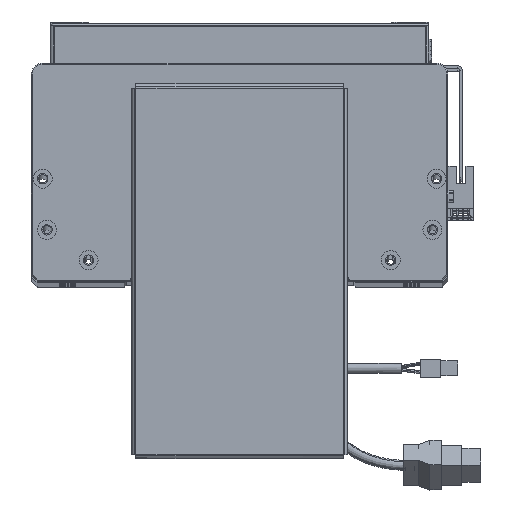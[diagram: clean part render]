
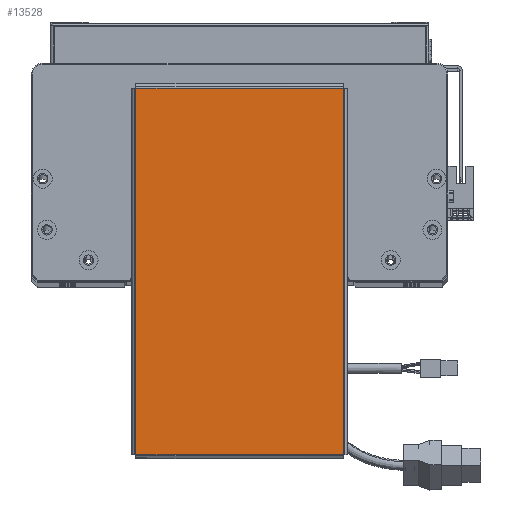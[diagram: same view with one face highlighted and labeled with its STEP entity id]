
A CAD part, top view. The second image highlights one B-rep face of the part: STEP entity #13528.
In plain terms, the highlighted planar face has unit normal (0, 0, 1).
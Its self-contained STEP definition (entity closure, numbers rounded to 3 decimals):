
#1502 = EDGE_CURVE ( 'NONE', #52311, #41374, #34867, .T. ) ;
#5179 = EDGE_CURVE ( 'NONE', #15331, #52311, #48232, .T. ) ;
#7423 = VECTOR ( 'NONE', #32592, 1000. ) ;
#12719 = ORIENTED_EDGE ( 'NONE', *, *, #48287, .T. ) ;
#13528 = ADVANCED_FACE ( 'NONE', ( #31254 ), #30038, .T. ) ;
#13842 = CARTESIAN_POINT ( 'NONE',  ( 0., 0., 0. ) ) ;
#15331 = VERTEX_POINT ( 'NONE', #54753 ) ;
#15430 = LINE ( 'NONE', #32255, #43226 ) ;
#19565 = ORIENTED_EDGE ( 'NONE', *, *, #5179, .T. ) ;
#23608 = CARTESIAN_POINT ( 'NONE',  ( -96.763, -54.763, 0. ) ) ;
#24125 = ORIENTED_EDGE ( 'NONE', *, *, #1502, .T. ) ;
#29405 = VECTOR ( 'NONE', #61556, 1000. ) ;
#30038 = PLANE ( 'NONE',  #51616 ) ;
#30051 = EDGE_LOOP ( 'NONE', ( #24125, #61906, #12719, #19565 ) ) ;
#31254 = FACE_OUTER_BOUND ( 'NONE', #30051, .T. ) ;
#31742 = CARTESIAN_POINT ( 'NONE',  ( -96.793, -54.763, 0. ) ) ;
#32255 = CARTESIAN_POINT ( 'NONE',  ( 96.763, -54.793, 0. ) ) ;
#32592 = DIRECTION ( 'NONE',  ( 0., -1., 0. ) ) ;
#34867 = LINE ( 'NONE', #31742, #62606 ) ;
#34896 = EDGE_CURVE ( 'NONE', #41374, #36111, #15430, .T. ) ;
#36111 = VERTEX_POINT ( 'NONE', #41732 ) ;
#41374 = VERTEX_POINT ( 'NONE', #44844 ) ;
#41732 = CARTESIAN_POINT ( 'NONE',  ( 96.763, 54.763, 0. ) ) ;
#42314 = DIRECTION ( 'NONE',  ( 1., 0., 0. ) ) ;
#43226 = VECTOR ( 'NONE', #53230, 1000. ) ;
#44844 = CARTESIAN_POINT ( 'NONE',  ( 96.763, -54.763, 0. ) ) ;
#48107 = CARTESIAN_POINT ( 'NONE',  ( -96.763, 54.793, 0. ) ) ;
#48232 = LINE ( 'NONE', #48107, #7423 ) ;
#48287 = EDGE_CURVE ( 'NONE', #36111, #15331, #62075, .T. ) ;
#51616 = AXIS2_PLACEMENT_3D ( 'NONE', #13842, #57603, #42314 ) ;
#52048 = DIRECTION ( 'NONE',  ( 1., 0., 0. ) ) ;
#52311 = VERTEX_POINT ( 'NONE', #23608 ) ;
#53230 = DIRECTION ( 'NONE',  ( 0., 1., 0. ) ) ;
#54753 = CARTESIAN_POINT ( 'NONE',  ( -96.763, 54.763, 0. ) ) ;
#56992 = CARTESIAN_POINT ( 'NONE',  ( 96.793, 54.763, 0. ) ) ;
#57603 = DIRECTION ( 'NONE',  ( 0., 0., 1. ) ) ;
#61556 = DIRECTION ( 'NONE',  ( -1., 0., 0. ) ) ;
#61906 = ORIENTED_EDGE ( 'NONE', *, *, #34896, .T. ) ;
#62075 = LINE ( 'NONE', #56992, #29405 ) ;
#62606 = VECTOR ( 'NONE', #52048, 1000. ) ;
